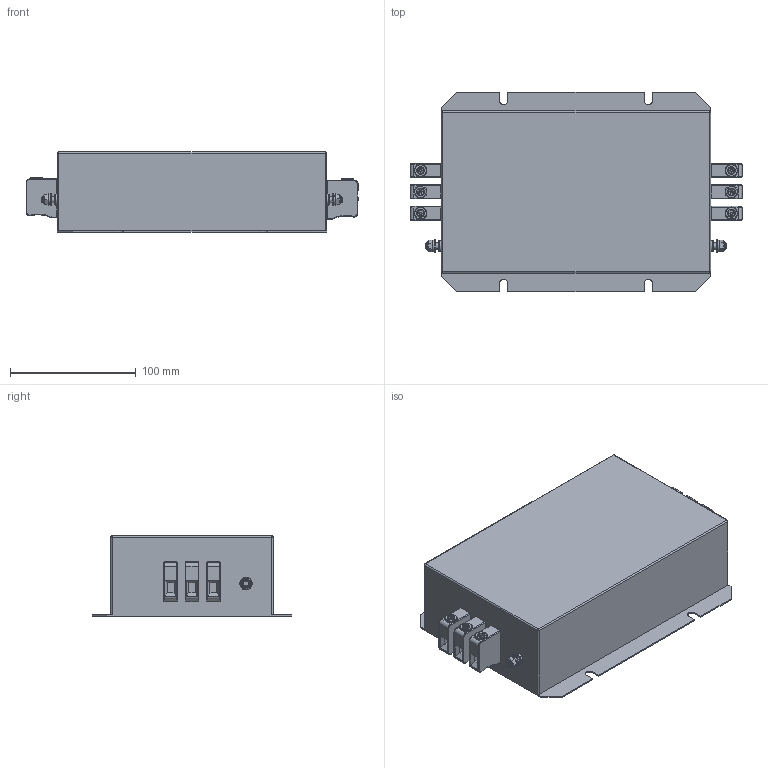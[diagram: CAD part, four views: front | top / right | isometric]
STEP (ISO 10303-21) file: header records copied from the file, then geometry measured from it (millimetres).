
FILE_DESCRIPTION((''),'2;1');
FILE_NAME('P:\Construction\INVENTOR_Projektedaten\HousingDesign\FN3120H-25-33.stp','2013-11-18T10:32:25',('erika.jenzer'),(''),'Autodesk Inventor 2013','Autodesk Inventor 2013','');
FILE_SCHEMA(('AUTOMOTIVE_DESIGN { 1 0 10303 214 1 1 1 1 }'));
Length unit declared in the file: millimetre
Products named in the file (1): FN3120H-25-33
Bounding box: 264 x 159 x 64 mm (x, y, z)
Volume: 1818671.6 mm3; surface area: 125547 mm2
Topology: 1 solids, 1 shells, 538 faces, 1290 edges, 758 vertices
Faces by surface type: plane 260, cylinder 170, torus 72, sphere 28, cone 8
Full cylindrical faces by diameter (mm): 5 x4, 5.1 x6, 5.3 x2, 8.7 x2, 10 x8
Entity records: 15313 total; most frequent: CARTESIAN_POINT 2729, DIRECTION 2720, ORIENTED_EDGE 2428, EDGE_CURVE 1214, AXIS2_PLACEMENT_3D 1003, VERTEX_POINT 748, VECTOR 714, LINE 714
